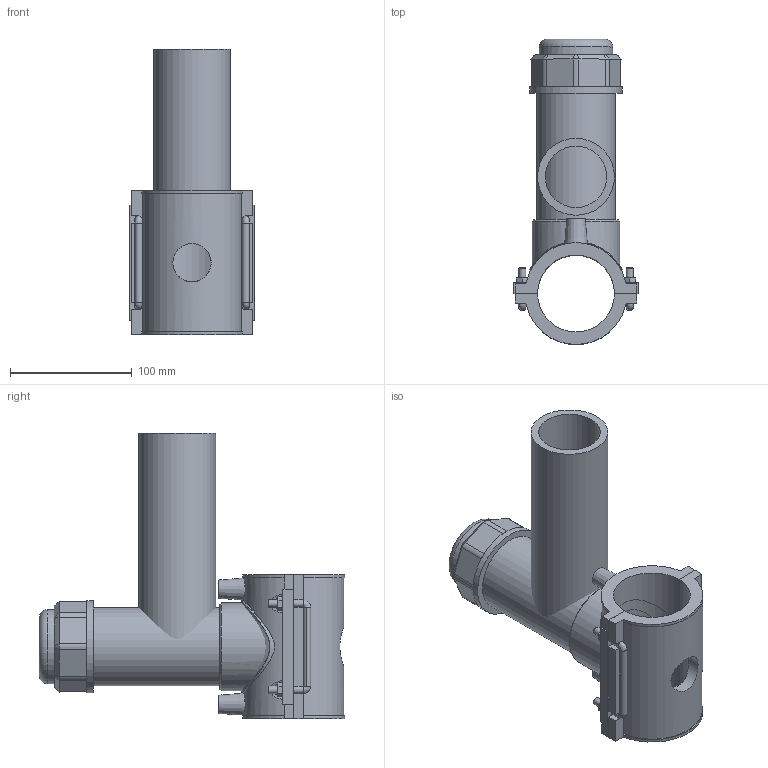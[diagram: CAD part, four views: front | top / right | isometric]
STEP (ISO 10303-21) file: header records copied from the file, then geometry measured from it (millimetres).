
FILE_DESCRIPTION(/* description */ (''),/* implementation_level */ '2;1');
FILE_NAME(/* name */ 'C:\Dropbox\KIMPROJECTS-Inventor 2019\99-16-3568-Processing\ElectroFusion Fittings\4963P4\stp\4963P4063063.stp',/* time_stamp */ '2022-03-17T11:25:55+02:00',/* author */ ('KIM'),/* organization */ (''),/* preprocessor_version */ 'ST-DEVELOPER v17.2',/* originating_system */ 'Autodesk Inventor 2019',/* authorisation */ '');
FILE_SCHEMA (('AUTOMOTIVE_DESIGN { 1 0 10303 214 3 1 1 }'));
Length unit declared in the file: millimetre
Products named in the file (1): 4963P4063063
Bounding box: 102 x 250.27 x 234 mm (x, y, z)
Volume: 849017.6 mm3; surface area: 219366.6 mm2
Topology: 3 solids, 3 shells, 183 faces, 475 edges, 304 vertices
Faces by surface type: plane 110, cylinder 48, cone 15, bspline 9, torus 1
Full cylindrical faces by diameter (mm): 4 x2, 6 x8, 10 x2, 31.36 x1, 50.4 x1, 52.92 x1, 60.48 x1, 63 x1, 64.26 x1, 71.82 x1, 75.6 x2
Entity records: 6656 total; most frequent: CARTESIAN_POINT 2122, ORIENTED_EDGE 934, DIRECTION 919, EDGE_CURVE 467, AXIS2_PLACEMENT_3D 311, VERTEX_POINT 304, LINE 297, VECTOR 297
